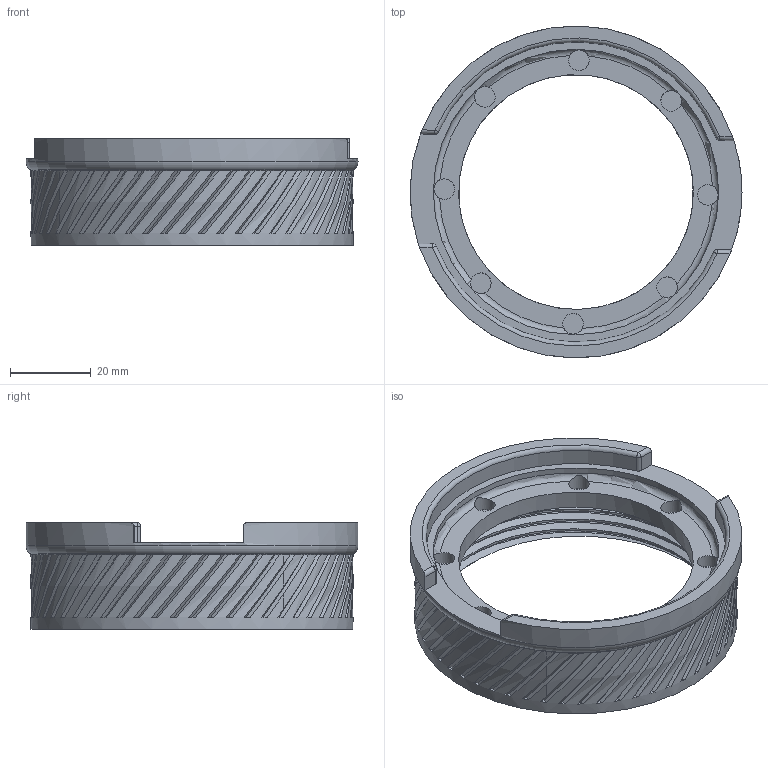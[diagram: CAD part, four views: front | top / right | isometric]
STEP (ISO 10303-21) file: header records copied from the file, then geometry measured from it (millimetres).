
FILE_DESCRIPTION(/* description */ ('STEP AP242','CAx-IF Rec.Pracs.---Representation and Presentation of Product Manufacturing Information (PMI)---4.0---2014-10-13','CAx-IF Rec.Pracs.---3D Tessellated Geometry---0.4---2014-09-14','2;1'),/* implementation_level */ '2;1');
FILE_NAME(/* name */ '646926edcac4670533c2134a',/* time_stamp */ '2023-05-20T20:00:46Z',/* author */ (''),/* organization */ (''),/* preprocessor_version */ 'ST-DEVELOPER v19.4',/* originating_system */ ' ',/* authorisation */ ' ');
FILE_SCHEMA (('AP242_MANAGED_MODEL_BASED_3D_ENGINEERING_MIM_LF { 1 0 10303 442 1 1 4 }'));
Length unit declared in the file: metre
Products named in the file (1): Base 26mm Magnet Lug
Bounding box: 82 x 82 x 26.4 mm (x, y, z)
Volume: 31893.3 mm3; surface area: 18845.7 mm2
Topology: 1 solids, 1 shells, 323 faces, 835 edges, 514 vertices
Faces by surface type: bspline 152, plane 132, cylinder 26, cone 5, torus 4, sphere 4
Full cylindrical faces by diameter (mm): 5.1 x8, 58 x1, 70.5 x1, 79.6 x1, 82 x1
Entity records: 15786 total; most frequent: CARTESIAN_POINT 9731, ORIENTED_EDGE 1582, DIRECTION 855, EDGE_CURVE 791, VERTEX_POINT 493, AXIS2_PLACEMENT_3D 392, EDGE_LOOP 342, FACE_BOUND 342
